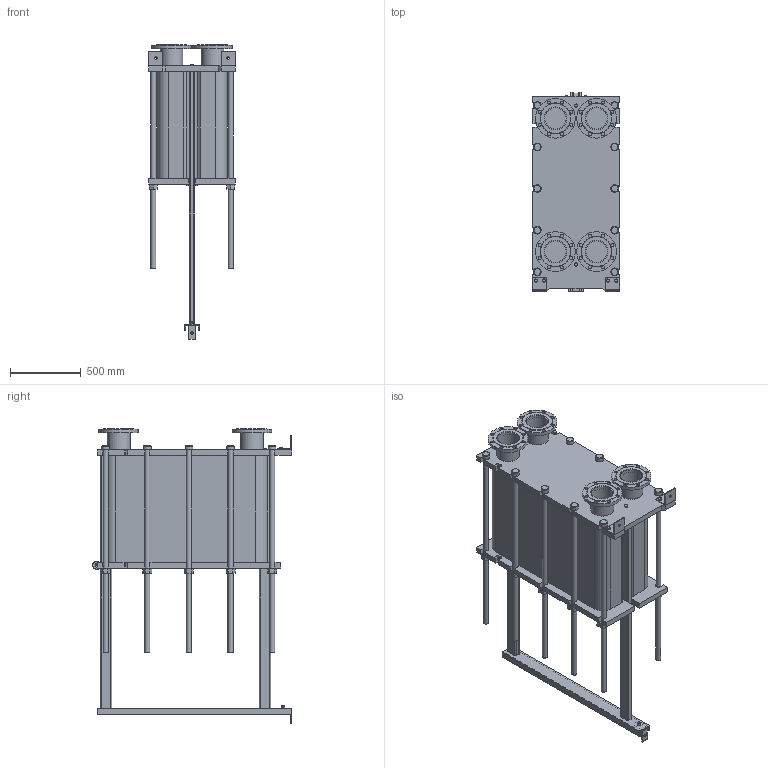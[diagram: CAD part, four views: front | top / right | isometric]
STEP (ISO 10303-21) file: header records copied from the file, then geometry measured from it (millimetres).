
FILE_DESCRIPTION(/* description */ (''),/* implementation_level */ '2;1');
FILE_NAME(/* name */ 'C:\Users\zhuro\Desktop\ENCO\TO\ЭН-041\ЭН-0,5-041-219-1.stp',/* time_stamp */ '2022-06-06T11:07:20+03:00',/* author */ ('zhuro'),/* organization */ (''),/* preprocessor_version */ 'ST-DEVELOPER v18.1',/* originating_system */ 'Autodesk Inventor 2022',/* authorisation */ '');
FILE_SCHEMA (('AUTOMOTIVE_DESIGN { 1 0 10303 214 3 1 1 }'));
Length unit declared in the file: millimetre
Products named in the file (1): ЭН-0,5-041-219-1
Bounding box: 610 x 1406.5 x 2082.5 mm (x, y, z)
Volume: 513785072.4 mm3; surface area: 11648363.5 mm2
Topology: 52 solids, 52 shells, 711 faces, 1696 edges, 1094 vertices
Faces by surface type: plane 487, cylinder 177, cone 41, torus 6
Full cylindrical faces by diameter (mm): 8 x4, 10 x2, 16 x8, 18 x3, 22 x32, 36 x24, 50 x1, 54 x10, 60 x12, 151 x4, 161 x8, 280 x4
Entity records: 22667 total; most frequent: CARTESIAN_POINT 5230, DIRECTION 3644, ORIENTED_EDGE 3392, EDGE_CURVE 1696, AXIS2_PLACEMENT_3D 1272, LINE 1100, VECTOR 1100, VERTEX_POINT 1094
